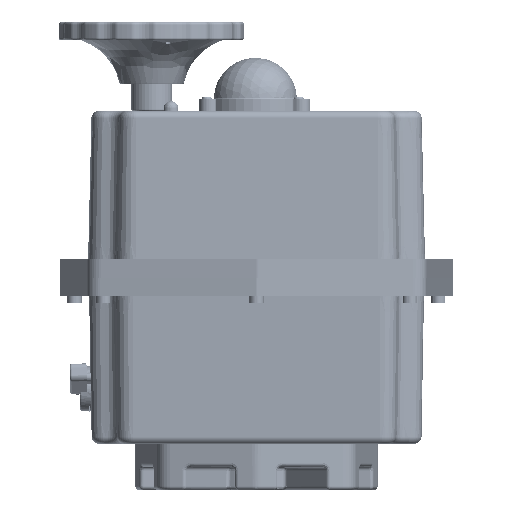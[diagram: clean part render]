
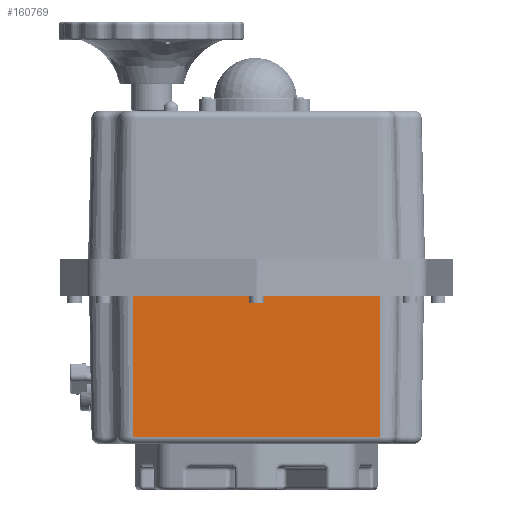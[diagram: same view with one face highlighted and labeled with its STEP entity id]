
A CAD part, front view. The second image highlights one B-rep face of the part: STEP entity #160769.
In plain terms, the highlighted planar face has unit normal (0, -1, -0.018) as drawn and (1, 0, 0.017) by its records, which use the part's own axes.
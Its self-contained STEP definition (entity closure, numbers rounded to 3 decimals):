
#2024 = CARTESIAN_POINT ( 'NONE',  ( 536.198, 171.154, 10. ) ) ;
#4621 = CARTESIAN_POINT ( 'NONE',  ( 536.198, 304.535, 10. ) ) ;
#6053 = ORIENTED_EDGE ( 'NONE', *, *, #123508, .F. ) ;
#7730 = VECTOR ( 'NONE', #43351, 1000. ) ;
#16070 = CARTESIAN_POINT ( 'NONE',  ( 534.87, 304.535, 86.07 ) ) ;
#20357 = LINE ( 'NONE', #59639, #28899 ) ;
#21467 = VECTOR ( 'NONE', #133822, 1000. ) ;
#28899 = VECTOR ( 'NONE', #172671, 1000. ) ;
#29657 = LINE ( 'NONE', #170047, #7730 ) ;
#34881 = CARTESIAN_POINT ( 'NONE',  ( 534.87, 171.154, 86.07 ) ) ;
#36220 = LINE ( 'NONE', #161158, #21467 ) ;
#43351 = DIRECTION ( 'NONE',  ( -0.017, 0., 1. ) ) ;
#59639 = CARTESIAN_POINT ( 'NONE',  ( 536.198, 304.535, 10. ) ) ;
#68462 = VECTOR ( 'NONE', #169390, 1000. ) ;
#71317 = AXIS2_PLACEMENT_3D ( 'NONE', #174745, #148327, #149212 ) ;
#86996 = EDGE_LOOP ( 'NONE', ( #101740, #6053, #160522, #103842 ) ) ;
#101740 = ORIENTED_EDGE ( 'NONE', *, *, #145567, .F. ) ;
#103842 = ORIENTED_EDGE ( 'NONE', *, *, #141556, .T. ) ;
#106056 = EDGE_CURVE ( 'NONE', #134111, #115310, #36220, .T. ) ;
#111397 = VERTEX_POINT ( 'NONE', #16070 ) ;
#115310 = VERTEX_POINT ( 'NONE', #2024 ) ;
#119179 = FACE_OUTER_BOUND ( 'NONE', #86996, .T. ) ;
#121853 = PLANE ( 'NONE',  #71317 ) ;
#123508 = EDGE_CURVE ( 'NONE', #115310, #146097, #29657, .T. ) ;
#133822 = DIRECTION ( 'NONE',  ( 0., -1., 0. ) ) ;
#134111 = VERTEX_POINT ( 'NONE', #4621 ) ;
#141556 = EDGE_CURVE ( 'NONE', #134111, #111397, #20357, .T. ) ;
#145567 = EDGE_CURVE ( 'NONE', #146097, #111397, #153938, .T. ) ;
#146097 = VERTEX_POINT ( 'NONE', #34881 ) ;
#148327 = DIRECTION ( 'NONE',  ( 1., 0., 0.017 ) ) ;
#149212 = DIRECTION ( 'NONE',  ( 0., -1., 0. ) ) ;
#153938 = LINE ( 'NONE', #156630, #68462 ) ;
#156630 = CARTESIAN_POINT ( 'NONE',  ( 534.87, 171.154, 86.07 ) ) ;
#160522 = ORIENTED_EDGE ( 'NONE', *, *, #106056, .F. ) ;
#160769 = ADVANCED_FACE ( 'NONE', ( #119179 ), #121853, .T. ) ;
#161158 = CARTESIAN_POINT ( 'NONE',  ( 536.198, 304.535, 10. ) ) ;
#169390 = DIRECTION ( 'NONE',  ( 0., 1., 0. ) ) ;
#170047 = CARTESIAN_POINT ( 'NONE',  ( 536.198, 171.154, 10. ) ) ;
#172671 = DIRECTION ( 'NONE',  ( -0.017, 0., 1. ) ) ;
#174745 = CARTESIAN_POINT ( 'NONE',  ( 536.264, 164.485, 6.197 ) ) ;
